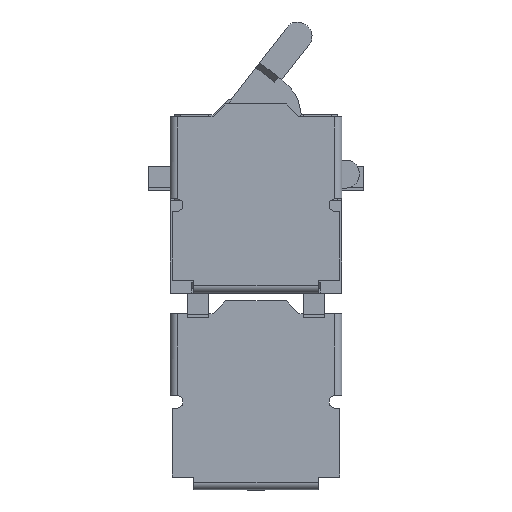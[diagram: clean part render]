
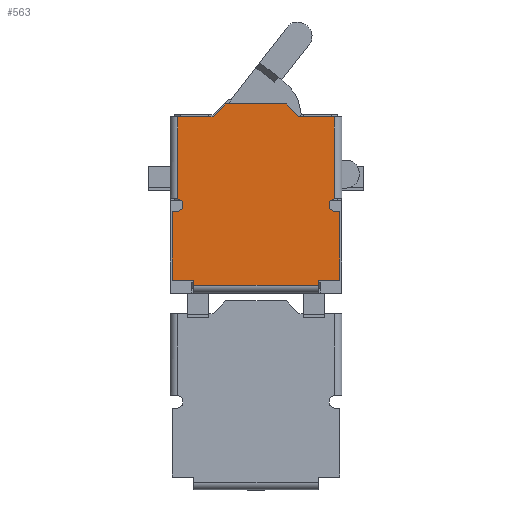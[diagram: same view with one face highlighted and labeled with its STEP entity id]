
A CAD part, top view. The second image highlights one B-rep face of the part: STEP entity #563.
In plain terms, the highlighted planar face has unit normal (0, 0, 1).
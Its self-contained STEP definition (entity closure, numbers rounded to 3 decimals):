
#563 = ADVANCED_FACE( '', ( #1096 ), #1097, .F. );
#1096 = FACE_OUTER_BOUND( '', #1635, .T. );
#1097 = PLANE( '', #1636 );
#1635 = EDGE_LOOP( '', ( #3127, #3128, #3129, #3130, #3131, #3132, #3133, #3134, #3135, #3136, #3137, #3138, #3139, #3140, #3141, #3142, #3143, #3144 ) );
#1636 = AXIS2_PLACEMENT_3D( '', #3145, #3146, #3147 );
#3127 = ORIENTED_EDGE( '', *, *, #3740, .F. );
#3128 = ORIENTED_EDGE( '', *, *, #3717, .T. );
#3129 = ORIENTED_EDGE( '', *, *, #3723, .F. );
#3130 = ORIENTED_EDGE( '', *, *, #3360, .F. );
#3131 = ORIENTED_EDGE( '', *, *, #3434, .F. );
#3132 = ORIENTED_EDGE( '', *, *, #3669, .T. );
#3133 = ORIENTED_EDGE( '', *, *, #3379, .T. );
#3134 = ORIENTED_EDGE( '', *, *, #3358, .F. );
#3135 = ORIENTED_EDGE( '', *, *, #3721, .T. );
#3136 = ORIENTED_EDGE( '', *, *, #3538, .T. );
#3137 = ORIENTED_EDGE( '', *, *, #3564, .T. );
#3138 = ORIENTED_EDGE( '', *, *, #3568, .F. );
#3139 = ORIENTED_EDGE( '', *, *, #3730, .F. );
#3140 = ORIENTED_EDGE( '', *, *, #3809, .T. );
#3141 = ORIENTED_EDGE( '', *, *, #3692, .T. );
#3142 = ORIENTED_EDGE( '', *, *, #3449, .T. );
#3143 = ORIENTED_EDGE( '', *, *, #3365, .F. );
#3144 = ORIENTED_EDGE( '', *, *, #3375, .F. );
#3145 = CARTESIAN_POINT( '', ( 5.1, -6.973, 0. ) );
#3146 = DIRECTION( '', ( 0., 0., -1. ) );
#3147 = DIRECTION( '', ( -1., 0., 0. ) );
#3358 = EDGE_CURVE( '', #4067, #4060, #4069, .F. );
#3360 = EDGE_CURVE( '', #4071, #4072, #4073, .T. );
#3365 = EDGE_CURVE( '', #4080, #4081, #4082, .T. );
#3375 = EDGE_CURVE( '', #4098, #4080, #4099, .T. );
#3379 = EDGE_CURVE( '', #4104, #4060, #4105, .T. );
#3434 = EDGE_CURVE( '', #4195, #4071, #4196, .T. );
#3449 = EDGE_CURVE( '', #4218, #4081, #4219, .T. );
#3538 = EDGE_CURVE( '', #4349, #4350, #4351, .T. );
#3564 = EDGE_CURVE( '', #4350, #4393, #4394, .T. );
#3568 = EDGE_CURVE( '', #4399, #4393, #4400, .T. );
#3669 = EDGE_CURVE( '', #4195, #4104, #4541, .T. );
#3692 = EDGE_CURVE( '', #4567, #4218, #4568, .T. );
#3717 = EDGE_CURVE( '', #4602, #4600, #4603, .F. );
#3721 = EDGE_CURVE( '', #4067, #4349, #4607, .T. );
#3723 = EDGE_CURVE( '', #4072, #4600, #4609, .T. );
#3730 = EDGE_CURVE( '', #4617, #4399, #4618, .T. );
#3740 = EDGE_CURVE( '', #4602, #4098, #4628, .T. );
#3809 = EDGE_CURVE( '', #4617, #4567, #4705, .F. );
#4060 = VERTEX_POINT( '', #5058 );
#4067 = VERTEX_POINT( '', #5066 );
#4069 = LINE( '', #5071, #5072 );
#4071 = VERTEX_POINT( '', #5074 );
#4072 = VERTEX_POINT( '', #5075 );
#4073 = LINE( '', #5076, #5077 );
#4080 = VERTEX_POINT( '', #5087 );
#4081 = VERTEX_POINT( '', #5088 );
#4082 = LINE( '', #5089, #5090 );
#4098 = VERTEX_POINT( '', #5113 );
#4099 = LINE( '', #5114, #5115 );
#4104 = VERTEX_POINT( '', #5122 );
#4105 = LINE( '', #5123, #5124 );
#4195 = VERTEX_POINT( '', #5255 );
#4196 = LINE( '', #5256, #5257 );
#4218 = VERTEX_POINT( '', #5292 );
#4219 = LINE( '', #5293, #5294 );
#4349 = VERTEX_POINT( '', #5486 );
#4350 = VERTEX_POINT( '', #5487 );
#4351 = LINE( '', #5488, #5489 );
#4393 = VERTEX_POINT( '', #5554 );
#4394 = LINE( '', #5555, #5556 );
#4399 = VERTEX_POINT( '', #5563 );
#4400 = LINE( '', #5564, #5565 );
#4541 = LINE( '', #5769, #5770 );
#4567 = VERTEX_POINT( '', #5816 );
#4568 = LINE( '', #5817, #5818 );
#4600 = VERTEX_POINT( '', #5867 );
#4602 = VERTEX_POINT( '', #5869 );
#4603 = LINE( '', #5870, #5871 );
#4607 = CIRCLE( '', #5878, 0.15 );
#4609 = LINE( '', #5880, #5881 );
#4617 = VERTEX_POINT( '', #5893 );
#4618 = LINE( '', #5894, #5895 );
#4628 = CIRCLE( '', #5909, 0.15 );
#4705 = LINE( '', #6014, #6015 );
#5058 = CARTESIAN_POINT( '', ( -1.82, -2.873, 0. ) );
#5066 = CARTESIAN_POINT( '', ( -1.82, -4.776, 0. ) );
#5071 = CARTESIAN_POINT( '', ( -1.82, -6.973, 0. ) );
#5072 = VECTOR( '', #6163, 1000. );
#5074 = CARTESIAN_POINT( '', ( 0.7, -2.573, 0. ) );
#5075 = CARTESIAN_POINT( '', ( 1., -2.873, 0. ) );
#5076 = CARTESIAN_POINT( '', ( 0.7, -2.573, 0. ) );
#5077 = VECTOR( '', #6164, 1000. );
#5087 = CARTESIAN_POINT( '', ( 1.95, -5.073, 0. ) );
#5088 = CARTESIAN_POINT( '', ( 1.95, -6.673, 0. ) );
#5089 = CARTESIAN_POINT( '', ( 1.95, -6.973, 0. ) );
#5090 = VECTOR( '', #6168, 1000. );
#5113 = CARTESIAN_POINT( '', ( 1.85, -5.073, 0. ) );
#5114 = CARTESIAN_POINT( '', ( 1.85, -5.073, 0. ) );
#5115 = VECTOR( '', #6176, 1000. );
#5122 = CARTESIAN_POINT( '', ( -1., -2.873, 0. ) );
#5123 = CARTESIAN_POINT( '', ( -1., -2.873, 0. ) );
#5124 = VECTOR( '', #6179, 1000. );
#5255 = CARTESIAN_POINT( '', ( -0.7, -2.573, 0. ) );
#5256 = CARTESIAN_POINT( '', ( 0., -2.573, 0. ) );
#5257 = VECTOR( '', #6230, 1000. );
#5292 = CARTESIAN_POINT( '', ( 1.45, -6.673, 0. ) );
#5293 = CARTESIAN_POINT( '', ( 1.45, -6.673, 0. ) );
#5294 = VECTOR( '', #6247, 1000. );
#5486 = CARTESIAN_POINT( '', ( -1.85, -5.073, 0. ) );
#5487 = CARTESIAN_POINT( '', ( -1.95, -5.073, 0. ) );
#5488 = CARTESIAN_POINT( '', ( -1.85, -5.073, 0. ) );
#5489 = VECTOR( '', #6322, 1000. );
#5554 = CARTESIAN_POINT( '', ( -1.95, -6.673, 0. ) );
#5555 = CARTESIAN_POINT( '', ( -1.95, -6.973, 0. ) );
#5556 = VECTOR( '', #6346, 1000. );
#5563 = CARTESIAN_POINT( '', ( -1.45, -6.673, 0. ) );
#5564 = CARTESIAN_POINT( '', ( -1.45, -6.673, 0. ) );
#5565 = VECTOR( '', #6349, 1000. );
#5769 = CARTESIAN_POINT( '', ( -0.7, -2.573, 0. ) );
#5770 = VECTOR( '', #6434, 1000. );
#5816 = CARTESIAN_POINT( '', ( 1.45, -6.793, 0. ) );
#5817 = CARTESIAN_POINT( '', ( 1.45, -6.973, 0. ) );
#5818 = VECTOR( '', #6449, 1000. );
#5867 = CARTESIAN_POINT( '', ( 1.82, -2.873, 0. ) );
#5869 = CARTESIAN_POINT( '', ( 1.82, -4.776, 0. ) );
#5870 = CARTESIAN_POINT( '', ( 1.82, -6.973, 0. ) );
#5871 = VECTOR( '', #6473, 1000. );
#5878 = AXIS2_PLACEMENT_3D( '', #6477, #6478, #6479 );
#5880 = CARTESIAN_POINT( '', ( 1., -2.873, 0. ) );
#5881 = VECTOR( '', #6480, 1000. );
#5893 = CARTESIAN_POINT( '', ( -1.45, -6.793, 0. ) );
#5894 = CARTESIAN_POINT( '', ( -1.45, -6.973, 0. ) );
#5895 = VECTOR( '', #6485, 1000. );
#5909 = AXIS2_PLACEMENT_3D( '', #6493, #6494, #6495 );
#6014 = CARTESIAN_POINT( '', ( 5.1, -6.793, 0. ) );
#6015 = VECTOR( '', #6533, 1000. );
#6163 = DIRECTION( '', ( 0., -1., 0. ) );
#6164 = DIRECTION( '', ( 0.707, -0.707, 0. ) );
#6168 = DIRECTION( '', ( 0., -1., 0. ) );
#6176 = DIRECTION( '', ( 1., 0., 0. ) );
#6179 = DIRECTION( '', ( -1., 0., 0. ) );
#6230 = DIRECTION( '', ( 1., 0., 0. ) );
#6247 = DIRECTION( '', ( 1., 0., 0. ) );
#6322 = DIRECTION( '', ( -1., 0., 0. ) );
#6346 = DIRECTION( '', ( 0., -1., 0. ) );
#6349 = DIRECTION( '', ( -1., 0., 0. ) );
#6434 = DIRECTION( '', ( -0.707, -0.707, 0. ) );
#6449 = DIRECTION( '', ( 0., 1., 0. ) );
#6473 = DIRECTION( '', ( 0., -1., 0. ) );
#6477 = CARTESIAN_POINT( '', ( -1.85, -4.923, 0. ) );
#6478 = DIRECTION( '', ( 0., 0., -1. ) );
#6479 = DIRECTION( '', ( 0., 1., 0. ) );
#6480 = DIRECTION( '', ( 1., 0., 0. ) );
#6485 = DIRECTION( '', ( 0., 1., 0. ) );
#6493 = CARTESIAN_POINT( '', ( 1.85, -4.923, 0. ) );
#6494 = DIRECTION( '', ( 0., 0., 1. ) );
#6495 = DIRECTION( '', ( 0., 1., 0. ) );
#6533 = DIRECTION( '', ( -1., 0., 0. ) );
